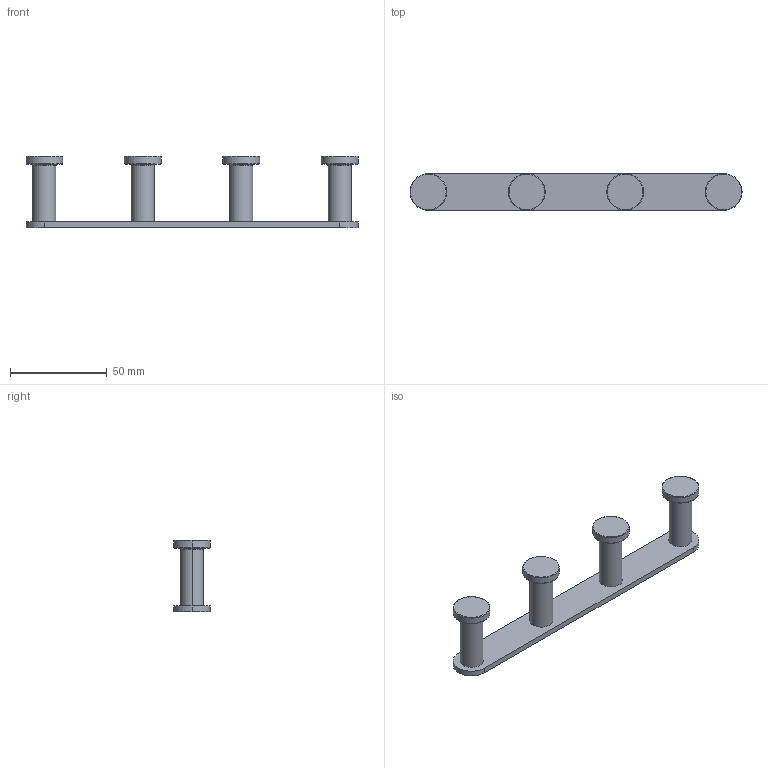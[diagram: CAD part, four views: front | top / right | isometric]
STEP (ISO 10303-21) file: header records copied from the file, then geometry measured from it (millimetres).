
FILE_DESCRIPTION (( 'STEP AP203' ), '1' );
FILE_NAME ('28034A-00-00.STEP', '2022-07-07T06:02:47', ( 'Windows User' ), ( 'P R C' ), 'SwSTEP 2.0', 'SolidWorks 2015', '' );
FILE_SCHEMA (( 'CONFIG_CONTROL_DESIGN' ));
Length unit declared in the file: millimetre
Products named in the file (1): 28034A-00-00
Bounding box: 172 x 19 x 37 mm (x, y, z)
Surface area: 14974.3 mm2 (no closed solid volume)
Topology: 0 solids, 8 shells, 98 faces, 235 edges, 150 vertices
Faces by surface type: plane 39, cylinder 27, torus 24, cone 8
Entity records: 2925 total; most frequent: DIRECTION 555, CARTESIAN_POINT 484, ORIENTED_EDGE 422, EDGE_CURVE 235, AXIS2_PLACEMENT_3D 221, VERTEX_POINT 150, CIRCLE 122, LINE 113
